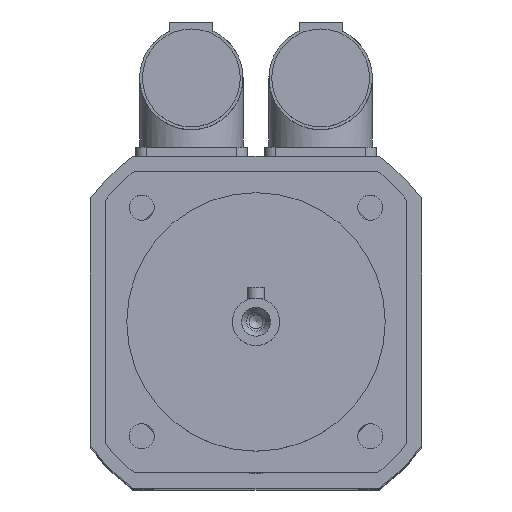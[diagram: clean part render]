
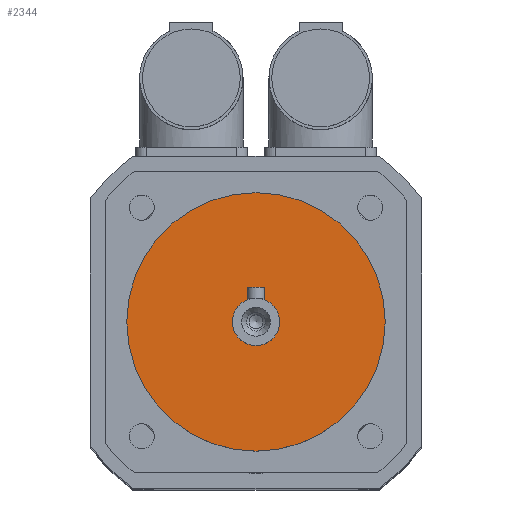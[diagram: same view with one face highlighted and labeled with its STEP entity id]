
A CAD part, top view. The second image highlights one B-rep face of the part: STEP entity #2344.
In plain terms, the highlighted planar face has unit normal (0, 0, 1).
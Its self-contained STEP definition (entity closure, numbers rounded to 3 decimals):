
#472=PLANE('',#2526);
#587=FACE_BOUND('',#805,.T.);
#653=FACE_OUTER_BOUND('',#804,.T.);
#804=EDGE_LOOP('',(#1839));
#805=EDGE_LOOP('',(#1840));
#951=CIRCLE('',#2525,5.5);
#952=CIRCLE('',#2527,30.);
#1114=VERTEX_POINT('',#3730);
#1115=VERTEX_POINT('',#3733);
#1385=EDGE_CURVE('',#1114,#1114,#951,.T.);
#1386=EDGE_CURVE('',#1115,#1115,#952,.T.);
#1839=ORIENTED_EDGE('',*,*,#1386,.F.);
#1840=ORIENTED_EDGE('',*,*,#1385,.T.);
#2344=ADVANCED_FACE('',(#653,#587),#472,.T.);
#2525=AXIS2_PLACEMENT_3D('',#3731,#2946,#2947);
#2526=AXIS2_PLACEMENT_3D('',#3732,#2948,#2949);
#2527=AXIS2_PLACEMENT_3D('',#3734,#2950,#2951);
#2946=DIRECTION('center_axis',(0.,0.,-1.));
#2947=DIRECTION('ref_axis',(1.,0.,0.));
#2948=DIRECTION('center_axis',(0.,0.,1.));
#2949=DIRECTION('ref_axis',(1.,0.,0.));
#2950=DIRECTION('center_axis',(0.,0.,-1.));
#2951=DIRECTION('ref_axis',(1.,0.,0.));
#3730=CARTESIAN_POINT('',(0.,5.5,238.5));
#3731=CARTESIAN_POINT('Origin',(0.,0.,238.5));
#3732=CARTESIAN_POINT('Origin',(0.,30.,238.5));
#3733=CARTESIAN_POINT('',(0.,30.,238.5));
#3734=CARTESIAN_POINT('Origin',(0.,0.,238.5));
